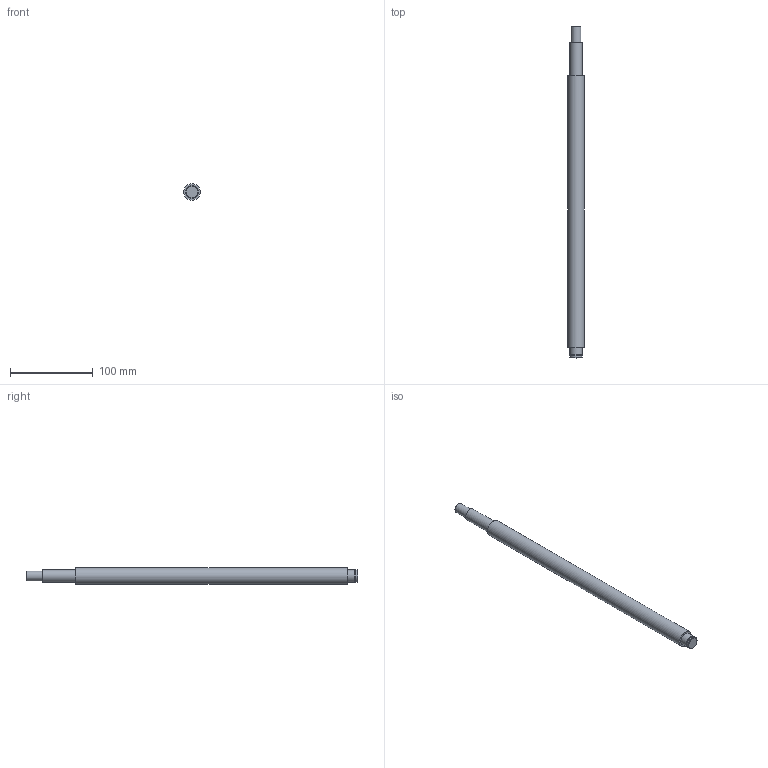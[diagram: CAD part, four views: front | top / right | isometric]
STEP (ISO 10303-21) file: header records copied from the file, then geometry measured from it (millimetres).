
FILE_DESCRIPTION(/* description */ (''),/* implementation_level */ '2;1');
FILE_NAME(/* name */ 'C:\Users\David\Desktop\stepFiles\Profilfuehrung\KUS2005x400.stp',/* time_stamp */ '2018-06-24T15:12:08+02:00',/* author */ ('David'),/* organization */ (''),/* preprocessor_version */ 'ST-DEVELOPER v17',/* originating_system */ 'Autodesk Inventor 2019',/* authorisation */ '');
FILE_SCHEMA (('AUTOMOTIVE_DESIGN { 1 0 10303 214 3 1 1 }'));
Length unit declared in the file: millimetre
Products named in the file (1): SFU2005xvaiabel
Bounding box: 20 x 400 x 20 mm (x, y, z)
Volume: 114329 mm3; surface area: 24430.1 mm2
Topology: 1 solids, 1 shells, 15 faces, 34 edges, 26 vertices
Faces by surface type: plane 7, cylinder 6, cone 2
Full cylindrical faces by diameter (mm): 12 x1, 14.3 x1, 15 x3, 20 x1
Entity records: 493 total; most frequent: DIRECTION 92, CARTESIAN_POINT 76, ORIENTED_EDGE 68, AXIS2_PLACEMENT_3D 42, EDGE_CURVE 34, CIRCLE 26, VERTEX_POINT 26, EDGE_LOOP 20
